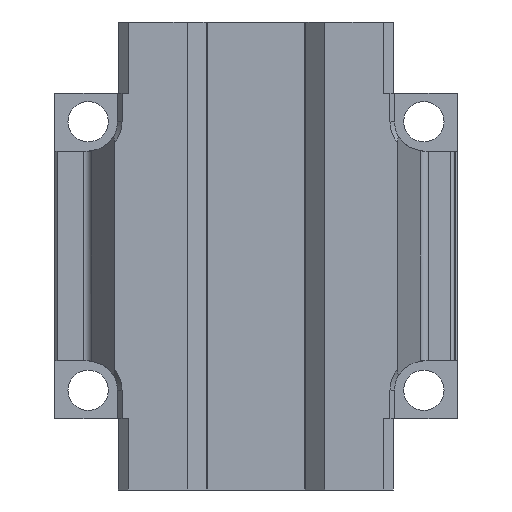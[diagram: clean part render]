
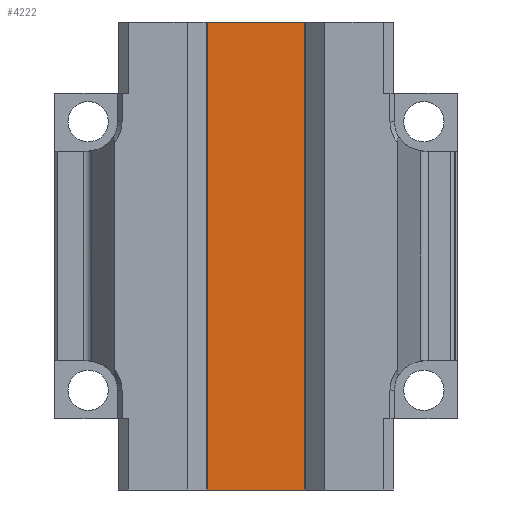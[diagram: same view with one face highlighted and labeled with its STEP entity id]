
A CAD part, front view. The second image highlights one B-rep face of the part: STEP entity #4222.
In plain terms, the highlighted planar face has unit normal (0, -1, 0).
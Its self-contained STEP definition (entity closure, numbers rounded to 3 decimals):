
#71 = LINE ( 'NONE', #4982, #111 ) ;
#83 = EDGE_CURVE ( 'NONE', #6466, #3533, #4589, .T. ) ;
#111 = VECTOR ( 'NONE', #527, 1000. ) ;
#238 = DIRECTION ( 'NONE',  ( -1., 0., 0. ) ) ;
#262 = EDGE_CURVE ( 'NONE', #7144, #5887, #2682, .T. ) ;
#324 = AXIS2_PLACEMENT_3D ( 'NONE', #1967, #2526, #6430 ) ;
#527 = DIRECTION ( 'NONE',  ( -1., 0., 0. ) ) ;
#1186 = ORIENTED_EDGE ( 'NONE', *, *, #83, .T. ) ;
#1446 = ORIENTED_EDGE ( 'NONE', *, *, #4955, .F. ) ;
#1636 = ORIENTED_EDGE ( 'NONE', *, *, #262, .T. ) ;
#1967 = CARTESIAN_POINT ( 'NONE',  ( 15.42, 0., -69.7 ) ) ;
#2526 = DIRECTION ( 'NONE',  ( 0., 1., 0. ) ) ;
#2587 = VECTOR ( 'NONE', #4609, 1000. ) ;
#2682 = LINE ( 'NONE', #4801, #2587 ) ;
#2692 = DIRECTION ( 'NONE',  ( 0., 0., -1. ) ) ;
#2850 = CARTESIAN_POINT ( 'NONE',  ( -14.51, 0., -69.7 ) ) ;
#3158 = FACE_OUTER_BOUND ( 'NONE', #5303, .T. ) ;
#3467 = ORIENTED_EDGE ( 'NONE', *, *, #3759, .T. ) ;
#3528 = CARTESIAN_POINT ( 'NONE',  ( 14.51, 0., 69.7 ) ) ;
#3533 = VERTEX_POINT ( 'NONE', #6041 ) ;
#3587 = CARTESIAN_POINT ( 'NONE',  ( 0., 0., -69.7 ) ) ;
#3759 = EDGE_CURVE ( 'NONE', #5887, #6466, #71, .T. ) ;
#4222 = ADVANCED_FACE ( 'NONE', ( #3158 ), #5295, .F. ) ;
#4511 = VECTOR ( 'NONE', #2692, 1000. ) ;
#4589 = LINE ( 'NONE', #2850, #4511 ) ;
#4609 = DIRECTION ( 'NONE',  ( 0., 0., 1. ) ) ;
#4801 = CARTESIAN_POINT ( 'NONE',  ( 14.51, 0., 69.7 ) ) ;
#4955 = EDGE_CURVE ( 'NONE', #7144, #3533, #5060, .T. ) ;
#4982 = CARTESIAN_POINT ( 'NONE',  ( 15.42, 0., 69.7 ) ) ;
#5060 = LINE ( 'NONE', #3587, #5159 ) ;
#5084 = CARTESIAN_POINT ( 'NONE',  ( -14.51, 0., 69.7 ) ) ;
#5159 = VECTOR ( 'NONE', #238, 1000. ) ;
#5295 = PLANE ( 'NONE',  #324 ) ;
#5303 = EDGE_LOOP ( 'NONE', ( #3467, #1186, #1446, #1636 ) ) ;
#5887 = VERTEX_POINT ( 'NONE', #3528 ) ;
#6041 = CARTESIAN_POINT ( 'NONE',  ( -14.51, 0., -69.7 ) ) ;
#6330 = CARTESIAN_POINT ( 'NONE',  ( 14.51, 0., -69.7 ) ) ;
#6430 = DIRECTION ( 'NONE',  ( -1., 0., 0. ) ) ;
#6466 = VERTEX_POINT ( 'NONE', #5084 ) ;
#7144 = VERTEX_POINT ( 'NONE', #6330 ) ;
